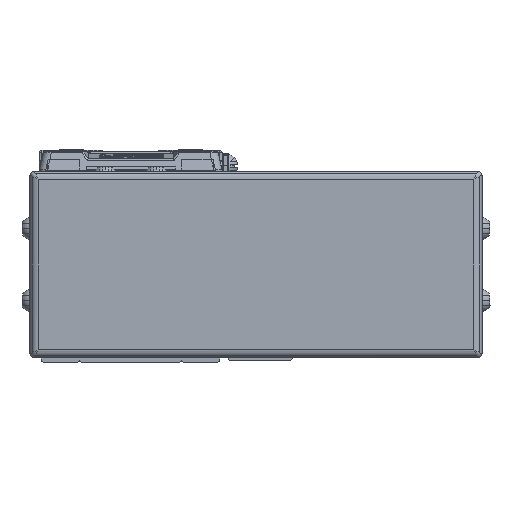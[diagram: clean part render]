
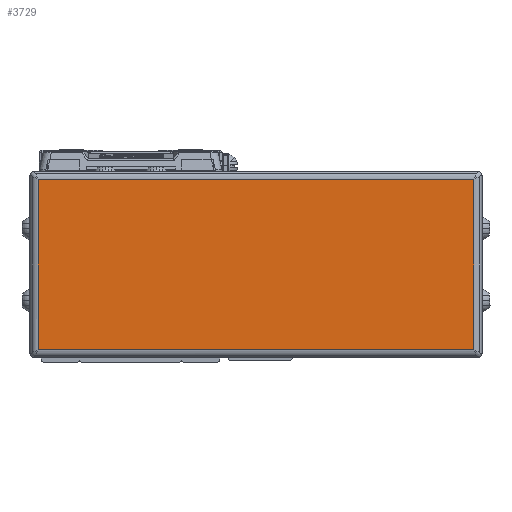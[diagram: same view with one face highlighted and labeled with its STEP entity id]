
A CAD part, left-side view. The second image highlights one B-rep face of the part: STEP entity #3729.
In plain terms, the highlighted planar face has unit normal (-1, 0, 0).
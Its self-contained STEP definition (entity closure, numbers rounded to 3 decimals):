
#3729=ADVANCED_FACE('',(#9141),#9142,.T.);
#9141=FACE_OUTER_BOUND('',#17478,.T.);
#9142=PLANE('',#17479);
#17478=EDGE_LOOP('',(#29916,#29917,#29918,#29919));
#17479=AXIS2_PLACEMENT_3D('',#29920,#29921,#29922);
#29916=ORIENTED_EDGE('',*,*,#49614,.F.);
#29917=ORIENTED_EDGE('',*,*,#48895,.F.);
#29918=ORIENTED_EDGE('',*,*,#49615,.F.);
#29919=ORIENTED_EDGE('',*,*,#49616,.F.);
#29920=CARTESIAN_POINT('',(-48.,-29.5,-4.));
#29921=DIRECTION('',(-1.0,0.,0.));
#29922=DIRECTION('',(0.,0.,1.0));
#48895=EDGE_CURVE('',#58594,#58596,#58597,.T.);
#49614=EDGE_CURVE('',#58596,#59764,#59787,.T.);
#49615=EDGE_CURVE('',#59788,#58594,#59789,.T.);
#49616=EDGE_CURVE('',#59764,#59788,#59790,.T.);
#58594=VERTEX_POINT('',#72205);
#58596=VERTEX_POINT('',#72207);
#58597=LINE('',#72208,#72209);
#59764=VERTEX_POINT('',#73842);
#59787=LINE('',#73870,#73871);
#59788=VERTEX_POINT('',#73872);
#59789=LINE('',#73873,#73874);
#59790=LINE('',#73875,#73876);
#72205=CARTESIAN_POINT('',(-48.,21.7,-24.));
#72207=CARTESIAN_POINT('',(-48.,21.7,16.));
#72208=CARTESIAN_POINT('',(-48.,21.7,-4.));
#72209=VECTOR('',#87805,10.0);
#73842=CARTESIAN_POINT('',(-48.,-80.7,16.));
#73870=CARTESIAN_POINT('',(-48.,-29.5,16.));
#73871=VECTOR('',#88718,10.0);
#73872=CARTESIAN_POINT('',(-48.,-80.7,-24.));
#73873=CARTESIAN_POINT('',(-48.,-29.5,-24.));
#73874=VECTOR('',#88719,10.0);
#73875=CARTESIAN_POINT('',(-48.,-80.7,-4.));
#73876=VECTOR('',#88720,10.0);
#87805=DIRECTION('',(0.,0.,1.0));
#88718=DIRECTION('',(0.,-1.0,0.));
#88719=DIRECTION('',(0.,1.0,0.));
#88720=DIRECTION('',(0.,0.,-1.0));
